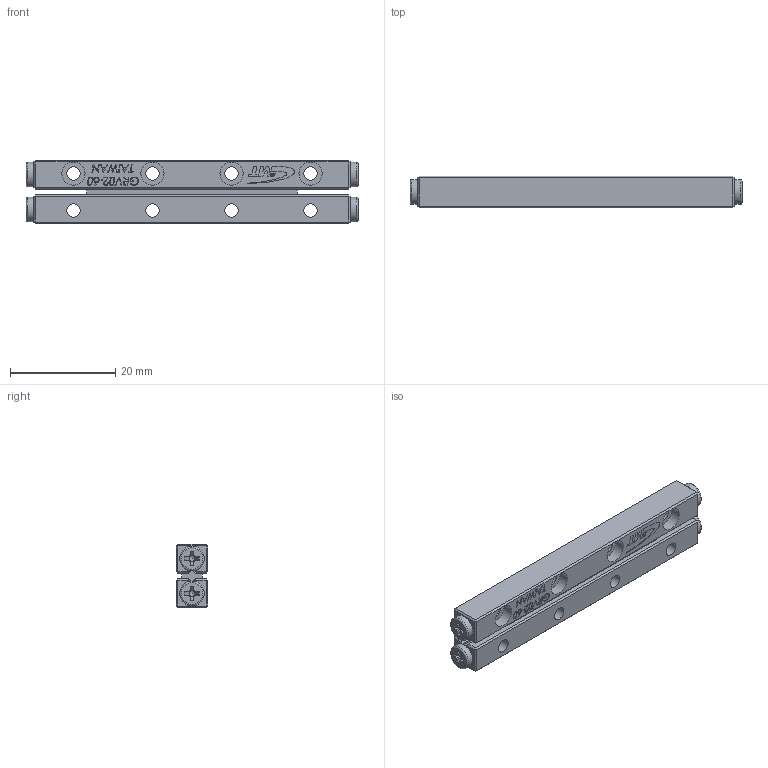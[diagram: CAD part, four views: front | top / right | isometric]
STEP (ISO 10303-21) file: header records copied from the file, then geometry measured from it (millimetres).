
FILE_DESCRIPTION (( 'STEP AP203' ), '1' );
FILE_NAME ('GRV02-60.STEP', '2023-08-16T05:51:13', ( '' ), ( '' ), 'SwSTEP 2.0', 'SolidWorks 2019', '' );
FILE_SCHEMA (( 'CONFIG_CONTROL_DESIGN' ));
Length unit declared in the file: millimetre
Products named in the file (3): GRV02-60; GRVP02-60-模糊化保持器組; GRV02-60-模糊化軌道
Assembly tree (3 placements, depth 2):
  GRV02-60
    GRV02-60-模糊化軌道  x2
    GRVP02-60-模糊化保持器組
Bounding box: 63 x 6 x 12 mm (x, y, z)
Volume: 3645.4 mm3; surface area: 3991.1 mm2
Topology: 3 solids, 3 shells, 808 faces, 2006 edges, 1292 vertices
Faces by surface type: plane 560, bspline 122, cylinder 62, cone 36, torus 28
Full cylindrical faces by diameter (mm): 2.55 x8, 4.4 x8, 4.7 x4
Entity records: 18160 total; most frequent: CARTESIAN_POINT 6993, ORIENTED_EDGE 2344, DIRECTION 1934, EDGE_CURVE 1172, LINE 810, VECTOR 810, VERTEX_POINT 766, EDGE_LOOP 576
